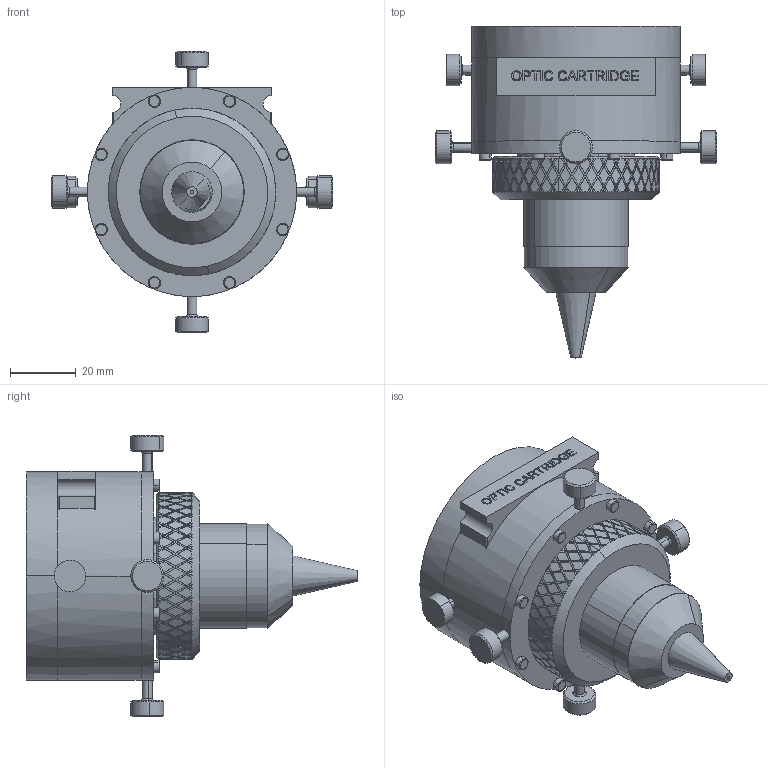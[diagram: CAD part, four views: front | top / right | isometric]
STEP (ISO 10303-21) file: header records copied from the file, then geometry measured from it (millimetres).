
FILE_DESCRIPTION (( 'STEP AP214' ), '1' );
FILE_NAME ('G2-38-38-089.STEP', '2017-01-04T21:02:12', ( '' ), ( '' ), 'SwSTEP 2.0', 'SolidWorks 2017', '' );
FILE_SCHEMA (( 'AUTOMOTIVE_DESIGN' ));
Length unit declared in the file: inch
Products named in the file (1): G2-38-38-089
Bounding box: 85.56 x 100.82 x 85.56 mm (x, y, z)
Volume: 162240.5 mm3; surface area: 30869.6 mm2
Topology: 1 solids, 1 shells, 1421 faces, 3582 edges, 2210 vertices
Faces by surface type: plane 1015, cylinder 287, bspline 65, torus 28, cone 26
Entity records: 46217 total; most frequent: CARTESIAN_POINT 15380, ORIENTED_EDGE 7164, DIRECTION 5439, EDGE_CURVE 3582, VERTEX_POINT 2210, LINE 1869, VECTOR 1869, AXIS2_PLACEMENT_3D 1785
